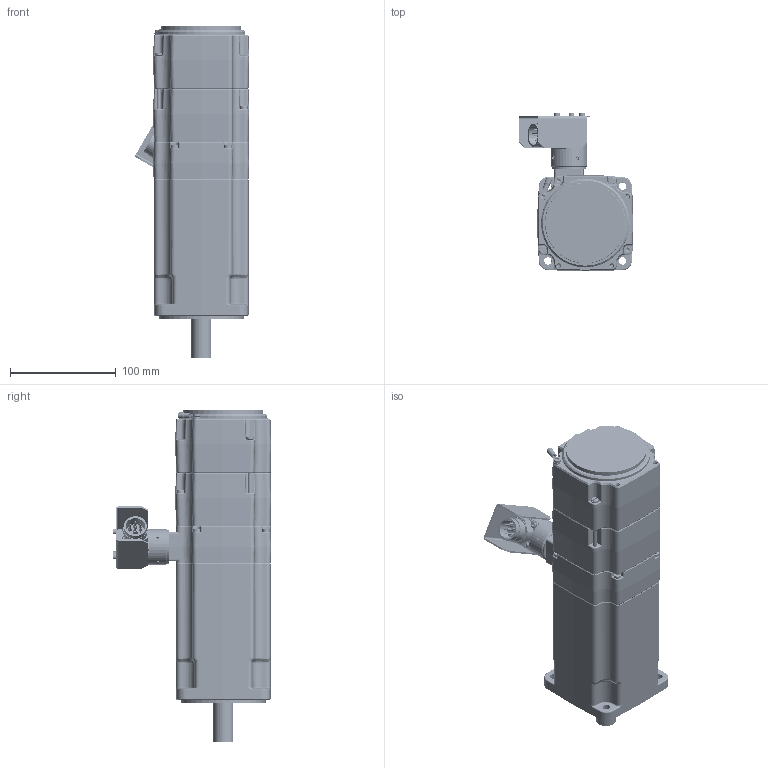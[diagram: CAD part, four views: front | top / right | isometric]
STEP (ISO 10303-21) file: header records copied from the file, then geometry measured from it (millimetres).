
FILE_DESCRIPTION((''),'2;1');
FILE_NAME('EY430EYR7310_ASM','2017-09-29T',('pf73167'),(''),'PRO/ENGINEER BY PARAMETRIC TECHNOLOGY CORPORATION, 2009400','PRO/ENGINEER BY PARAMETRIC TECHNOLOGY CORPORATION, 2009400','');
FILE_SCHEMA(('CONFIG_CONTROL_DESIGN'));
Length unit declared in the file: millimetre
Products named in the file (50): 344176P0027; 5116P1308; 1613P0123; 344174P0004; 344171P0002; 344212P0002; 344171P0002_ASM; 220087P0012; 344175R0004_ASM; 5116P1315; 1711P0005; 1645P0017; 344170P0002; 344225R3000; 344561P0001; 344570P0002_ENROULE; 344228R3000_ASM; 344172P0010; 344173R3008_ASM; 5340P0069; 5320P0033; 1143P0415; 1821P0015; 1613P0043; 1613P0044; 1317P0303; 283154_05_P1BF102_AF0; 283154_05_P1F501_AF0; 283154P0037_ASM; 1150P0305; 344180P0001; 344180P0019; 1642P0104; 6620P0012; 1143P0408; 1120P0086; 345359P0002; 5340P0124; 5340P0125; 1150P0204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
Assembly tree (121 placements, depth 4):
  EY430EYR7310_ASM
    344176P0027
    5116P1308
    1613P0123
    344175R0004_ASM
      344174P0004
      344171P0002_ASM
        344171P0002
        344212P0002  x2
      220087P0012  x30
    5116P1315
    1711P0005
    1645P0017  x2
    344173R3008_ASM
      344228R3000_ASM
        344170P0002
        344225R3000  x6
        344561P0001  x2
        344570P0002_ENROULE  x2
      344172P0010
    5340P0069  x3
    5320P0033
    1143P0415  x6
    1821P0015  x2
    1613P0043  x4
    1613P0044  x2
    1317P0303
    283154P0037_ASM
      283154_05_P1BF102_AF0
      283154_05_P1F501_AF0
    1150P0305  x4
    344180P0001
    344180P0019
    1642P0104
    6620P0012
    1143P0408
    1120P0086  x2
    345359R1010_ASM
      345359P0002
      5340P0124
      5340P0125
      1150P0204  x8
      345359P0001
      1170P0042  x4
      220132P1010_ASM
        220132P1010_0001
        220132P1010_0002
        220132P0111  x4
        220132P0120  x3
      345359P0003
      1150P0305  x3
Bounding box: 108.48 x 150.2 x 313.9 mm (x, y, z)
Volume: 1303345.7 mm3; surface area: 553908.1 mm2
Topology: 118 solids, 137 shells, 6586 faces, 15725 edges, 9542 vertices
Faces by surface type: cylinder 2280, plane 2097, bspline 988, cone 727, torus 446, sphere 28, extrusion 20
Entity records: 155653 total; most frequent: CARTESIAN_POINT 54744, ORIENTED_EDGE 20986, DIRECTION 20771, EDGE_CURVE 10493, AXIS2_PLACEMENT_3D 7846, VERTEX_POINT 6508, VECTOR 5079, LINE 5059
